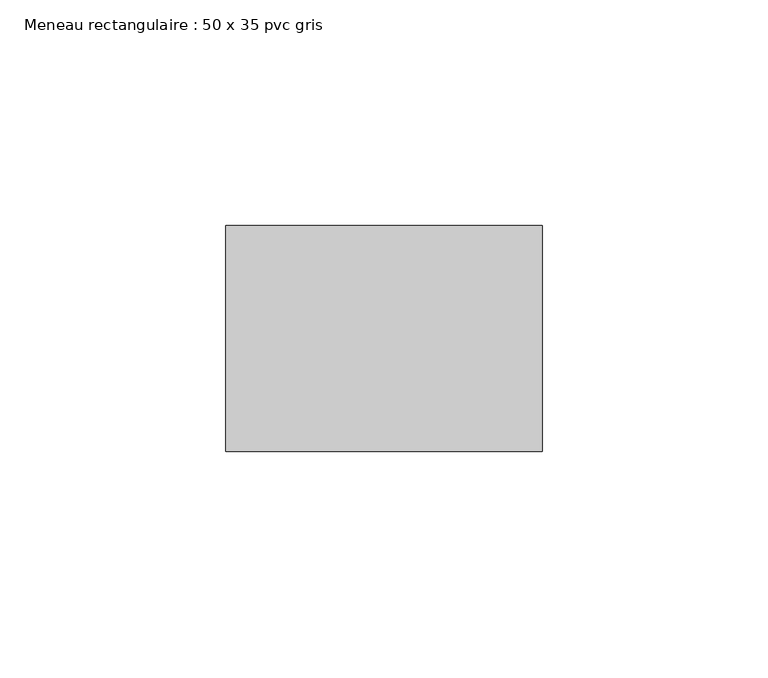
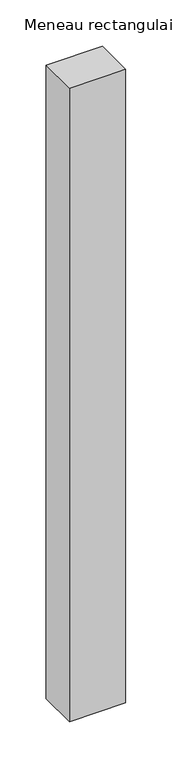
"""IFC4 building model written with IfcOpenShell, lengths in millimetres: member geometry, Meneau rectangulaire : 50 x 35 pvc gris."""

import ifcopenshell
import ifcopenshell.guid

model = None  # the IFC model being written
_history = None  # IfcOwnerHistory: only IFC2X3 demands one
_inside = {}  # id of a spatial element -> (the spatial element, [elements in it])
_under = {}  # id of a project, library or spatial element -> (it, [spatial elements below it])
_declared = {}  # id of a project -> (the project, [libraries it declares])
_typed = {}  # id of a type object -> (the type object, [elements of that type])
_made_of = {}  # id of a material, layer set ... -> (it, [elements and type objects made of it])


def new_model(schema):
    """Start an empty IFC model of exactly this schema.

    Asked for "IFC4X3", IfcOpenShell would pick the latest addendum, in which some entities
    have other attributes; the version numbers below select the first issue.
    IFC2X3 requires an IfcOwnerHistory on every rooted entity: one is made here for all.
    """
    global model, _history
    if schema == "IFC4X3":
        model = ifcopenshell.file(schema_version=(4, 3, 0, 0))
    else:
        model = ifcopenshell.file(schema=schema)
    _inside.clear()
    _under.clear()
    _declared.clear()
    _typed.clear()
    _made_of.clear()
    _history = None
    if model.schema == "IFC2X3":
        org = make("IfcOrganization", Name="unknown")
        user = make(
            "IfcPersonAndOrganization",
            ThePerson=make("IfcPerson", FamilyName="unknown"),
            TheOrganization=org,
        )
        app = make(
            "IfcApplication",
            ApplicationDeveloper=org,
            Version="unknown",
            ApplicationFullName="unknown",
            ApplicationIdentifier="unknown",
        )
        _history = make(
            "IfcOwnerHistory",
            OwningUser=user,
            OwningApplication=app,
            ChangeAction="ADDED",
            CreationDate=0,
        )
    return model


def make(cls, **values):
    """One entity of the class cls with the attributes given. An attribute that is None is left unset."""
    return model.create_entity(
        cls, **{name: value for name, value in values.items() if value is not None}
    )


def rooted(cls, **values):
    """An entity with a GlobalId (a new one), such as an element, a storey or a relation."""
    return make(cls, GlobalId=ifcopenshell.guid.new(), OwnerHistory=_history, **values)


def si_unit(unit_type, name, prefix=None):
    """IfcSIUnit, for example si_unit("LENGTHUNIT", "METRE", prefix="MILLI")."""
    return make("IfcSIUnit", UnitType=unit_type, Prefix=prefix, Name=name)


def assignment(units):
    """IfcUnitAssignment: the units of a project."""
    return None if units is None else make("IfcUnitAssignment", Units=units)


def point(xyz):
    """IfcCartesianPoint."""
    return None if xyz is None else make("IfcCartesianPoint", Coordinates=xyz)


def direction(xyz):
    """IfcDirection."""
    return None if xyz is None else make("IfcDirection", DirectionRatios=xyz)


def frame(location, z_axis=None, x_axis=None):
    """IfcAxis2Placement3D, a coordinate frame: its origin and axes. An axis left out is left unset."""
    return make(
        "IfcAxis2Placement3D",
        Location=point(location),
        Axis=direction(z_axis),
        RefDirection=direction(x_axis),
    )


def origin():
    """The frame at (0, 0, 0) with its axes left unset."""
    return frame((0.0, 0.0, 0.0))


def place(relative_to, where):
    """IfcLocalPlacement: puts the frame where relative to a parent placement (None: the world)."""
    return make(
        "IfcLocalPlacement", PlacementRelTo=relative_to, RelativePlacement=where
    )


def context(
    kind, dimensions, precision=None, world=None, true_north=None, identifier=None
):
    """IfcGeometricRepresentationContext, for example the 3D "Model" context."""
    return make(
        "IfcGeometricRepresentationContext",
        ContextIdentifier=identifier,
        ContextType=kind,
        CoordinateSpaceDimension=dimensions,
        Precision=precision,
        WorldCoordinateSystem=world,
        TrueNorth=true_north,
    )


def project(units=None, contexts=None):
    """IfcProject with its units and contexts."""
    return rooted(
        "IfcProject",
        Name="project",
        RepresentationContexts=contexts,
        UnitsInContext=assignment(units),
    )


def spatial(cls, under=None, at=None, **own):
    """A site, building, storey or space (cls), placed at a placement, below another one or the project."""
    s = rooted(cls, ObjectPlacement=at, **own)
    if under is not None:
        _under.setdefault(under.id(), (under, []))[1].append(s)
    return s


def polyline(points):
    """IfcPolyline through the points."""
    return make("IfcPolyline", Points=[point(p) for p in points])


def outline(outer, holes=None, kind="AREA"):
    """IfcArbitraryClosedProfileDef: a profile drawn as a closed curve; with holes, ...WithVoids."""
    if holes is None:
        return make("IfcArbitraryClosedProfileDef", ProfileType=kind, OuterCurve=outer)
    return make(
        "IfcArbitraryProfileDefWithVoids",
        ProfileType=kind,
        OuterCurve=outer,
        InnerCurves=holes,
    )


def extrude(swept, where, along, depth):
    """IfcExtrudedAreaSolid: the profile swept, set in the frame where, extruded along a direction by depth."""
    return make(
        "IfcExtrudedAreaSolid",
        SweptArea=swept,
        Position=where,
        ExtrudedDirection=direction(along),
        Depth=depth,
    )


def shape(context_of_items, identifier, shape_type, items):
    """IfcShapeRepresentation: the items that make up one representation, for example the "Body"."""
    return make(
        "IfcShapeRepresentation",
        ContextOfItems=context_of_items,
        RepresentationIdentifier=identifier,
        RepresentationType=shape_type,
        Items=items,
    )


def source(mapping_origin, context_of_items, identifier, shape_type, items):
    """IfcRepresentationMap: a shape defined once, which mapped items show again and again."""
    return make(
        "IfcRepresentationMap",
        MappingOrigin=mapping_origin,
        MappedRepresentation=shape(context_of_items, identifier, shape_type, items),
    )


def transform(
    local_origin,
    x_axis=None,
    y_axis=None,
    z_axis=None,
    scale=None,
    scale2=None,
    scale3=None,
    uniform=True,
):
    """IfcCartesianTransformationOperator3D, or its non-uniform kind. x_axis, y_axis, z_axis: its Axis1, 2, 3."""
    if uniform:
        return make(
            "IfcCartesianTransformationOperator3D",
            Axis1=direction(x_axis),
            Axis2=direction(y_axis),
            LocalOrigin=point(local_origin),
            Scale=scale,
            Axis3=direction(z_axis),
        )
    return make(
        "IfcCartesianTransformationOperator3DnonUniform",
        Axis1=direction(x_axis),
        Axis2=direction(y_axis),
        LocalOrigin=point(local_origin),
        Scale=scale,
        Axis3=direction(z_axis),
        Scale2=scale2,
        Scale3=scale3,
    )


def mapped(mapping_source, mapping_target):
    """IfcMappedItem: shows the shape of a source again, moved by a transform."""
    return make(
        "IfcMappedItem", MappingSource=mapping_source, MappingTarget=mapping_target
    )


def made_of(thing, what):
    """Note that an element or type object is made of a material, layer set ...; save() writes the relation."""
    if what is not None:
        _made_of.setdefault(what.id(), (what, []))[1].append(thing)
    return thing


def element(
    cls,
    number,
    at=None,
    inside=None,
    cuts=None,
    type_object=None,
    material=None,
    context=None,
    identifier="Body",
    shape_type=None,
    held_by="IfcProductDefinitionShape",
    body=None,
    shapes=None,
    **own,
):
    """One element of the class cls, such as IfcWall. Its Tag is "e" and its number.

    at: its placement. inside: the storey or other place that contains it. cuts: it is an
    opening in that element (IfcRelVoidsElement). A single representation is given by context,
    identifier, shape_type and body (its items); several are given by shapes. held_by: the class
    of the entity that holds the representations. save() writes the other relations.
    """
    e = rooted(cls, Tag="e%d" % number, ObjectPlacement=at, **own)
    if body is not None:
        shapes = [shape(context, identifier, shape_type, body)]
    if shapes is not None:
        e.Representation = make(held_by, Representations=shapes)
    if inside is not None:
        _inside.setdefault(inside.id(), (inside, []))[1].append(e)
    if cuts is not None:
        rooted(
            "IfcRelVoidsElement", RelatingBuildingElement=cuts, RelatedOpeningElement=e
        )
    if type_object is not None:
        _typed.setdefault(type_object.id(), (type_object, []))[1].append(e)
    return made_of(e, material)


def aggregate(whole, parts):
    """IfcRelAggregates: a whole, such as a stair, and the parts it consists of."""
    return rooted("IfcRelAggregates", RelatingObject=whole, RelatedObjects=parts)


def save(model, path):
    """Write the relations noted so far, then the file.

    IfcRelAggregates (storeys below a building ...), IfcRelContainedInSpatialStructure (elements
    in a storey), IfcRelDefinesByType, IfcRelAssociatesMaterial and IfcRelDeclares: one each for
    every whole, place, type object, material and project.
    """
    for whole, parts in _under.values():
        aggregate(whole, parts)
    for where, things in _inside.values():
        rooted(
            "IfcRelContainedInSpatialStructure",
            RelatedElements=things,
            RelatingStructure=where,
        )
    for kind, things in _typed.values():
        rooted("IfcRelDefinesByType", RelatedObjects=things, RelatingType=kind)
    for what, things in _made_of.values():
        rooted("IfcRelAssociatesMaterial", RelatedObjects=things, RelatingMaterial=what)
    for by, libraries in _declared.values():
        rooted("IfcRelDeclares", RelatingContext=by, RelatedDefinitions=libraries)
    model.write(path)


def meneau_rectangulaire_50_x_35_pvc_gris_4270bac0(model_context):
    return source(origin(), model_context, "Body", "SweptSolid", [
        extrude(outline(polyline([(35.0, 0.0), (35.0, -50.0), (-35.0, -50.0), (-35.0, 0.0), (35.0, 0.0)])), frame((0.0, 0.0, -833.475215), z_axis=(0.0, 0.0, 1.0), x_axis=(1.0, 0.0, 0.0)), (0.0, 0.0, 1.0), 833.475215),
    ])


if __name__ == "__main__":
    model = new_model("IFC4")
    model_context = context("Model", 3, world=origin())
    ifc_project = project(units=[si_unit("LENGTHUNIT", "METRE", prefix="MILLI")], contexts=[model_context])
    site = spatial("IfcSite", under=ifc_project)
    building = spatial("IfcBuilding", under=site)
    placement = place(None, origin())
    meneau_rectangulaire_50_x_35_pvc_gris_shape = meneau_rectangulaire_50_x_35_pvc_gris_4270bac0(model_context)
    element("IfcMember", 1, ObjectType="Meneau rectangulaire : 50 x 35 pvc gris", at=placement, inside=building, context=model_context, shape_type="MappedRepresentation", body=[
        mapped(meneau_rectangulaire_50_x_35_pvc_gris_shape, transform((0.0, 0.0, 0.0), x_axis=(1.0, 0.0, 0.0), y_axis=(0.0, 1.0, 0.0), z_axis=(0.0, 0.0, 1.0))),
    ])
    save(model, "model.ifc")
